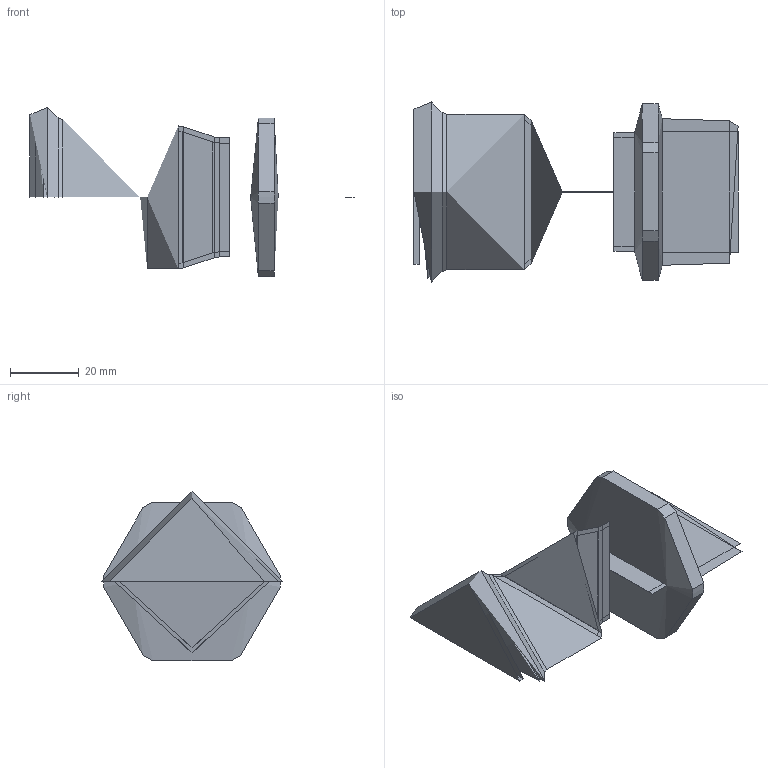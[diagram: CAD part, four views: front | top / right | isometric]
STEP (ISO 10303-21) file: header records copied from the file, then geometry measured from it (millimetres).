
FILE_DESCRIPTION(('FreeCAD Model'),'2;1');
FILE_NAME('Open CASCADE Shape Model','2025-10-20T15:01:29',('Author'),( ''),'Open CASCADE STEP processor 7.8','FreeCAD','Unknown');
FILE_SCHEMA(('AUTOMOTIVE_DESIGN { 1 0 10303 214 1 1 1 1 }'));
Length unit declared in the file: millimetre
Products named in the file (7): Unnamed163; COMPOUND; COMPOUND001; X-Achse; XY-Ebene; COMPOUND002; COMPOUND003
Assembly tree (18 placements, depth 3):
  Unnamed163
    COMPOUND
    COMPOUND001
      COMPOUND
    X-Achse  x6
    XY-Ebene  x6
    COMPOUND002
    COMPOUND003
      COMPOUND002
Bounding box: 94 x 52.24 x 49.12 mm (x, y, z)
Volume: 57630.3 mm3; surface area: 54832.8 mm2
Topology: 4 solids, 4 shells, 92 faces, 286 edges, 198 vertices
Faces by surface type: bspline 92
Entity records: 2280 total; most frequent: CARTESIAN_POINT 1338, ORIENTED_EDGE 280, EDGE_CURVE 140, VERTEX_POINT 99, FACE_BOUND 51, EDGE_LOOP 51, ADVANCED_FACE 46, DIRECTION 39
